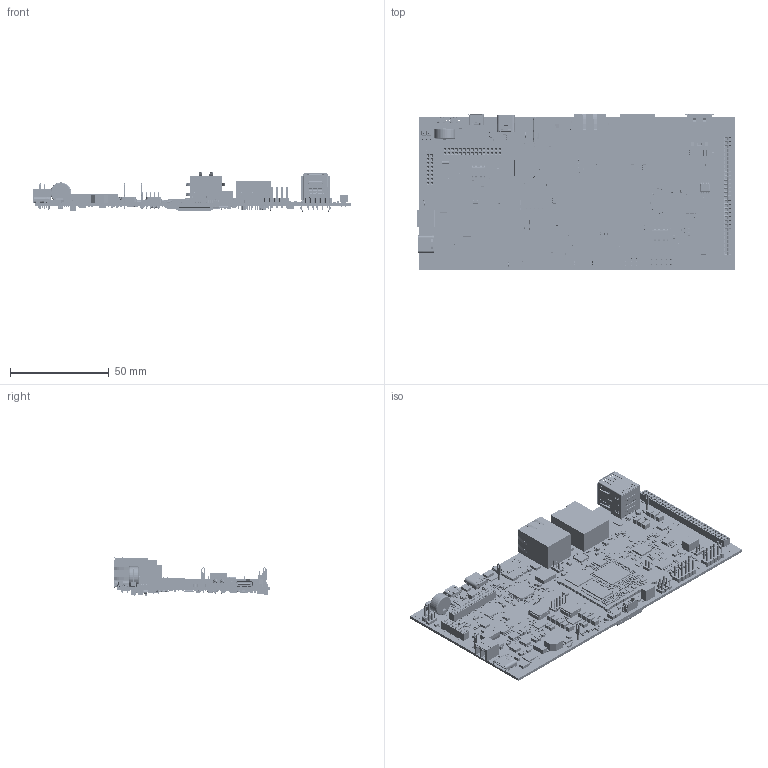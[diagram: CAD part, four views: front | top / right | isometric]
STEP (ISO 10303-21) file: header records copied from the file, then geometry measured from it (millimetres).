
FILE_DESCRIPTION(('STEP AP214'),'1');
FILE_NAME('Board1_BoardAndModels.step','2024-07-08T14:41:37',(' '),(' '),'Spatial InterOp 3D','XD3DPlugin XRACreate',' ');
FILE_SCHEMA(('automotive_design'));
Length unit declared in the file: millimetre
Products named in the file (408): Submodel-N:\GROUP\DEVELOP\HARDWARE\PBA-CD-33_phyBOARD-Nash_iMX93\Design\1616.1\003\PBA-CD-33\Board1_PCB\Layout\3D\Input_S\CONN3693_VL111_150-3-010-0-S-XS0-0835.xtd; CONN3693_VL111_150-3-010-0-S-XS0-0835; Submodel-CONN3693_part_simplified_X2X5-2mm; DesignRootModel; Submodel-N:\GROUP\DEVELOP\HARDWARE\PBA-CD-33_phyBOARD-Nash_iMX93\Design\1616.1\003\PBA-CD-33\Board1_PCB\Layout\3D\Input_S\JUMP32.xtd; JUMP32; Submodel-JUMP32_part_simplified_J1X3-0402-C3; Submodel-N:\GROUP\DEVELOP\HARDWARE\PBA-CD-33_phyBOARD-Nash_iMX93\Design\1616.1\003\PBA-CD-33\Board1_PCB\Layout\3D\Input_S\REMOVE_CONN2292.xtd; REMOVE_CONN2292; Submodel-CONN2292_part_simplified_Testpunkt-1mm; Submodel-N:\GROUP\DEVELOP\HARDWARE\PBA-CD-33_phyBOARD-Nash_iMX93\Design\1616.1\003\PBA-CD-33\Board1_PCB\Layout\3D\Input_S\RCC-0402-1000F.xtd; RCC-0402-1000F; Submodel-RES1982_part_simplified_0402-C3; Submodel-N:\GROUP\DEVELOP\HARDWARE\PBA-CD-33_phyBOARD-Nash_iMX93\Design\1616.1\003\PBA-CD-33\Board1_PCB\Layout\3D\Input_S\GRM155R71C104KA88D.xtd; GRM155R71C104KA88D; Submodel-CAP722_part_simplified_0402-C3; Submodel-N:\GROUP\DEVELOP\HARDWARE\PBA-CD-33_phyBOARD-Nash_iMX93\Design\1616.1\003\PBA-CD-33\Board1_PCB\Layout\3D\Input_S\GMC10X7R104K100NT.xtd; GMC10X7R104K100NT; Submodel-CAP1102_part_simplified_0603-C3; Submodel-RES802_part_simplified_0402-C3; Submodel-RES2732_part_simplified_0402-C3; Submodel-RES1832_part_simplified_0402-C3; Submodel-RES1022_part_simplified_0402-C3; Submodel-RES2002_part_simplified_0402-C3; Submodel-N:\GROUP\DEVELOP\HARDWARE\PBA-CD-33_phyBOARD-Nash_iMX93\Design\1616.1\003\PBA-CD-33\Board1_PCB\Layout\3D\Input_S\TRANSISTOR932.xtd; TRANSISTOR932; Submodel-TRANSISTOR932_part_simplified_DFN-0806-3; Submodel-N:\GROUP\DEVELOP\HARDWARE\PBA-CD-33_phyBOARD-Nash_iMX93\Design\1616.1\003\PBA-CD-33\Board1_PCB\Layout\3D\Input_S\xd_sot23_16.xtd; xd_sot23_16; Submodel-ICGEN2233_part_simplified_SOT23-FET-C3; Submodel-N:\GROUP\DEVELOP\HARDWARE\PBA-CD-33_phyBOARD-Nash_iMX93\Design\1616.1\003\PBA-CD-33\Board1_PCB\Layout\3D\Input_S\JUMP163.xtd; JUMP163; Submodel-JUMP163_part_simplified_JP1X3-2mm; Submodel-RES862_part_simplified_0402-C3; Submodel-N:\GROUP\DEVELOP\HARDWARE\PBA-CD-33_phyBOARD-Nash_iMX93\Design\1616.1\003\PBA-CD-33\Board1_PCB\Layout\3D\Input_S\xd_sot23-6_5.xtd; xd_sot23-6_5; Submodel-DIODE322_part_simplified_SOT23-6-C3; Submodel-N:\GROUP\DEVELOP\HARDWARE\PBA-CD-33_phyBOARD-Nash_iMX93\Design\1616.1\003\PBA-CD-33\Board1_PCB\Layout\3D\Input_S\CL21C182JBFNNNS.xtd; CL21C182JBFNNNS; Submodel-CAP2113_part_simplified_0805-C3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
Assembly tree (1048 placements, depth 5):
  Board1_BoardAndModels
    DesignRootModel
      Submodel-CONN3693_part_simplified_X2X5-2mm
        Submodel-N:\GROUP\DEVELOP\HARDWARE\PBA-CD-33_phyBOARD-Nash_iMX93\Design\1616.1\003\PBA-CD-33\Board1_PCB\Layout\3D\Input_S\CONN3693_VL111_150-3-010-0-S-XS0-0835.xtd
          CONN3693_VL111_150-3-010-0-S-XS0-0835
      Submodel-JUMP32_part_simplified_J1X3-0402-C3  x2
        Submodel-N:\GROUP\DEVELOP\HARDWARE\PBA-CD-33_phyBOARD-Nash_iMX93\Design\1616.1\003\PBA-CD-33\Board1_PCB\Layout\3D\Input_S\JUMP32.xtd
          JUMP32
      Submodel-CONN2292_part_simplified_Testpunkt-1mm  x14
        Submodel-N:\GROUP\DEVELOP\HARDWARE\PBA-CD-33_phyBOARD-Nash_iMX93\Design\1616.1\003\PBA-CD-33\Board1_PCB\Layout\3D\Input_S\REMOVE_CONN2292.xtd
          REMOVE_CONN2292
      Submodel-RES1982_part_simplified_0402-C3  x78
        Submodel-N:\GROUP\DEVELOP\HARDWARE\PBA-CD-33_phyBOARD-Nash_iMX93\Design\1616.1\003\PBA-CD-33\Board1_PCB\Layout\3D\Input_S\RCC-0402-1000F.xtd
          RCC-0402-1000F
      Submodel-CAP722_part_simplified_0402-C3  x128
        Submodel-N:\GROUP\DEVELOP\HARDWARE\PBA-CD-33_phyBOARD-Nash_iMX93\Design\1616.1\003\PBA-CD-33\Board1_PCB\Layout\3D\Input_S\GRM155R71C104KA88D.xtd
          GRM155R71C104KA88D
      Submodel-CAP1102_part_simplified_0603-C3  x14
        Submodel-N:\GROUP\DEVELOP\HARDWARE\PBA-CD-33_phyBOARD-Nash_iMX93\Design\1616.1\003\PBA-CD-33\Board1_PCB\Layout\3D\Input_S\GMC10X7R104K100NT.xtd
          GMC10X7R104K100NT
      Submodel-RES802_part_simplified_0402-C3  x28
        Submodel-N:\GROUP\DEVELOP\HARDWARE\PBA-CD-33_phyBOARD-Nash_iMX93\Design\1616.1\003\PBA-CD-33\Board1_PCB\Layout\3D\Input_S\RCC-0402-1000F.xtd
          RCC-0402-1000F
      Submodel-RES2732_part_simplified_0402-C3  x4
        Submodel-N:\GROUP\DEVELOP\HARDWARE\PBA-CD-33_phyBOARD-Nash_iMX93\Design\1616.1\003\PBA-CD-33\Board1_PCB\Layout\3D\Input_S\RCC-0402-1000F.xtd
          RCC-0402-1000F
      Submodel-RES1832_part_simplified_0402-C3  x12
        Submodel-N:\GROUP\DEVELOP\HARDWARE\PBA-CD-33_phyBOARD-Nash_iMX93\Design\1616.1\003\PBA-CD-33\Board1_PCB\Layout\3D\Input_S\RCC-0402-1000F.xtd
          RCC-0402-1000F
      Submodel-RES1022_part_simplified_0402-C3  x4
        Submodel-N:\GROUP\DEVELOP\HARDWARE\PBA-CD-33_phyBOARD-Nash_iMX93\Design\1616.1\003\PBA-CD-33\Board1_PCB\Layout\3D\Input_S\RCC-0402-1000F.xtd
          RCC-0402-1000F
      Submodel-RES2002_part_simplified_0402-C3  x12
        Submodel-N:\GROUP\DEVELOP\HARDWARE\PBA-CD-33_phyBOARD-Nash_iMX93\Design\1616.1\003\PBA-CD-33\Board1_PCB\Layout\3D\Input_S\RCC-0402-1000F.xtd
          RCC-0402-1000F
      Submodel-TRANSISTOR932_part_simplified_DFN-0806-3  x13
        Submodel-N:\GROUP\DEVELOP\HARDWARE\PBA-CD-33_phyBOARD-Nash_iMX93\Design\1616.1\003\PBA-CD-33\Board1_PCB\Layout\3D\Input_S\TRANSISTOR932.xtd
          TRANSISTOR932
      Submodel-ICGEN2233_part_simplified_SOT23-FET-C3
        Submodel-N:\GROUP\DEVELOP\HARDWARE\PBA-CD-33_phyBOARD-Nash_iMX93\Design\1616.1\003\PBA-CD-33\Board1_PCB\Layout\3D\Input_S\xd_sot23_16.xtd
          xd_sot23_16
      Submodel-JUMP163_part_simplified_JP1X3-2mm  x4
        Submodel-N:\GROUP\DEVELOP\HARDWARE\PBA-CD-33_phyBOARD-Nash_iMX93\Design\1616.1\003\PBA-CD-33\Board1_PCB\Layout\3D\Input_S\JUMP163.xtd
          JUMP163
      Submodel-RES862_part_simplified_0402-C3  x9
        Submodel-N:\GROUP\DEVELOP\HARDWARE\PBA-CD-33_phyBOARD-Nash_iMX93\Design\1616.1\003\PBA-CD-33\Board1_PCB\Layout\3D\Input_S\RCC-0402-1000F.xtd
          RCC-0402-1000F
      Submodel-DIODE322_part_simplified_SOT23-6-C3  x8
        Submodel-N:\GROUP\DEVELOP\HARDWARE\PBA-CD-33_phyBOARD-Nash_iMX93\Design\1616.1\003\PBA-CD-33\Board1_PCB\Layout\3D\Input_S\xd_sot23-6_5.xtd
          xd_sot23-6_5
      Submodel-CAP2113_part_simplified_0805-C3  x8
        Submodel-N:\GROUP\DEVELOP\HARDWARE\PBA-CD-33_phyBOARD-Nash_iMX93\Design\1616.1\003\PBA-CD-33\Board1_PCB\Layout\3D\Input_S\CL21C182JBFNNNS.xtd
          CL21C182JBFNNNS
      Submodel-ICGEN4393_part_simplified_SO8-60-65-C3
        Submodel-N:\GROUP\DEVELOP\HARDWARE\PBA-CD-33_phyBOARD-Nash_iMX93\Design\1616.1\003\PBA-CD-33\Board1_PCB\Layout\3D\Input_S\ICGEN4393_DDF0008A.xtd
          ICGEN4393_DDF0008A
      Submodel-ICGEN4473_part_simplified_DSG-9-50-N8  x2
        Submodel-N:\GROUP\DEVELOP\HARDWARE\PBA-CD-33_phyBOARD-Nash_iMX93\Design\1616.1\003\PBA-CD-33\Board1_PCB\Layout\3D\Input_S\xd_dfn_83.xtd
          xd_dfn_83
      Submodel-CONN3673_part_simplified_Buchse-RJ45-Jac
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Bounding box: 161 x 78.83 x 19.98 mm (x, y, z)
Volume: 34267.6 mm3; surface area: 66876.1 mm2
Topology: 1999 solids, 3197 shells, 36010 faces, 93405 edges, 61368 vertices
Faces by surface type: plane 26169, cylinder 7485, sphere 1884, torus 262, bspline 119, cone 91
Full cylindrical faces by diameter (mm): 0.053 x2, 0.225 x1, 0.25 x2, 0.65 x2, 0.9 x8, 1 x14, 1.1 x2, 1.2 x4, 3.2 x2, 3.4 x2
Entity records: 901009 total; most frequent: CARTESIAN_POINT 122357, DIRECTION 109666, ORIENTED_EDGE 108608, EDGE_CURVE 55638, LINE 45692, VECTOR 45692, VERTEX_POINT 37391, PRESENTATION_STYLE_ASSIGNMENT 33174
